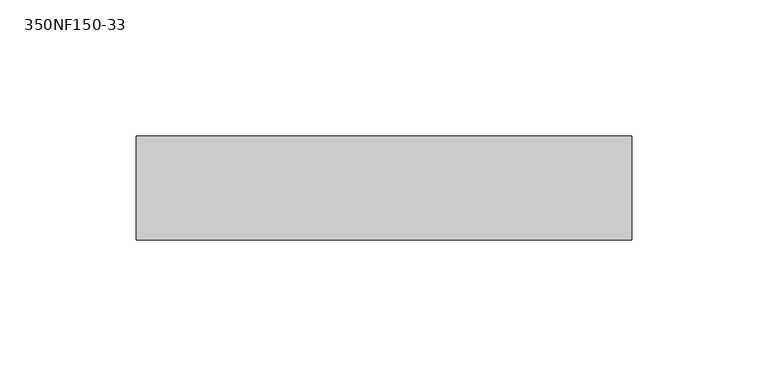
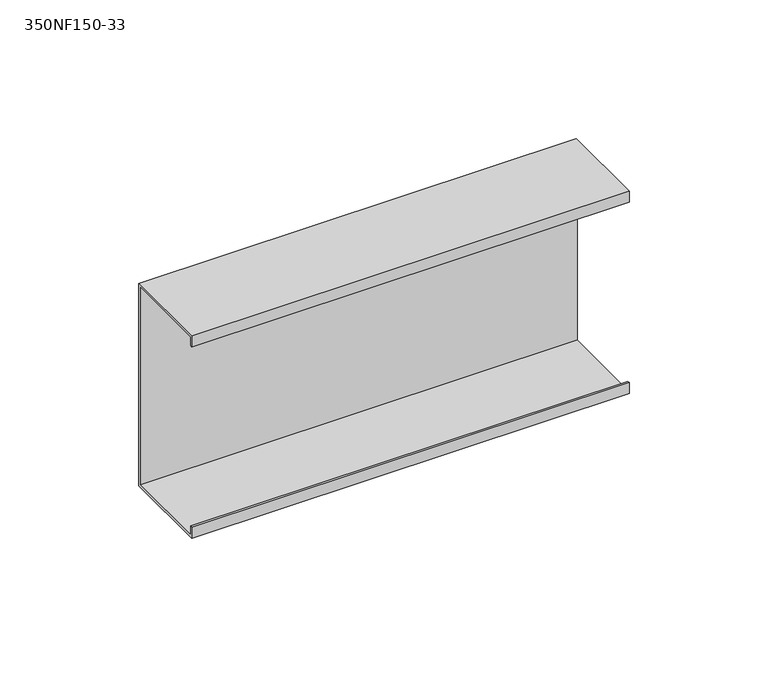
"""IFC4 building model written with IfcOpenShell, lengths in millimetres: beam geometry, BIMSF-SSMA-S : 350NF150-33."""

import ifcopenshell
import ifcopenshell.guid

model = None  # the IFC model being written
_history = None  # IfcOwnerHistory: only IFC2X3 demands one
_inside = {}  # id of a spatial element -> (the spatial element, [elements in it])
_under = {}  # id of a project, library or spatial element -> (it, [spatial elements below it])
_declared = {}  # id of a project -> (the project, [libraries it declares])
_typed = {}  # id of a type object -> (the type object, [elements of that type])
_made_of = {}  # id of a material, layer set ... -> (it, [elements and type objects made of it])


def new_model(schema):
    """Start an empty IFC model of exactly this schema.

    Asked for "IFC4X3", IfcOpenShell would pick the latest addendum, in which some entities
    have other attributes; the version numbers below select the first issue.
    IFC2X3 requires an IfcOwnerHistory on every rooted entity: one is made here for all.
    """
    global model, _history
    if schema == "IFC4X3":
        model = ifcopenshell.file(schema_version=(4, 3, 0, 0))
    else:
        model = ifcopenshell.file(schema=schema)
    _inside.clear()
    _under.clear()
    _declared.clear()
    _typed.clear()
    _made_of.clear()
    _history = None
    if model.schema == "IFC2X3":
        org = make("IfcOrganization", Name="unknown")
        user = make(
            "IfcPersonAndOrganization",
            ThePerson=make("IfcPerson", FamilyName="unknown"),
            TheOrganization=org,
        )
        app = make(
            "IfcApplication",
            ApplicationDeveloper=org,
            Version="unknown",
            ApplicationFullName="unknown",
            ApplicationIdentifier="unknown",
        )
        _history = make(
            "IfcOwnerHistory",
            OwningUser=user,
            OwningApplication=app,
            ChangeAction="ADDED",
            CreationDate=0,
        )
    return model


def make(cls, **values):
    """One entity of the class cls with the attributes given. An attribute that is None is left unset."""
    return model.create_entity(
        cls, **{name: value for name, value in values.items() if value is not None}
    )


def rooted(cls, **values):
    """An entity with a GlobalId (a new one), such as an element, a storey or a relation."""
    return make(cls, GlobalId=ifcopenshell.guid.new(), OwnerHistory=_history, **values)


def si_unit(unit_type, name, prefix=None):
    """IfcSIUnit, for example si_unit("LENGTHUNIT", "METRE", prefix="MILLI")."""
    return make("IfcSIUnit", UnitType=unit_type, Prefix=prefix, Name=name)


def assignment(units):
    """IfcUnitAssignment: the units of a project."""
    return None if units is None else make("IfcUnitAssignment", Units=units)


def point(xyz):
    """IfcCartesianPoint."""
    return None if xyz is None else make("IfcCartesianPoint", Coordinates=xyz)


def direction(xyz):
    """IfcDirection."""
    return None if xyz is None else make("IfcDirection", DirectionRatios=xyz)


def frame(location, z_axis=None, x_axis=None):
    """IfcAxis2Placement3D, a coordinate frame: its origin and axes. An axis left out is left unset."""
    return make(
        "IfcAxis2Placement3D",
        Location=point(location),
        Axis=direction(z_axis),
        RefDirection=direction(x_axis),
    )


def origin():
    """The frame at (0, 0, 0) with its axes left unset."""
    return frame((0.0, 0.0, 0.0))


def place(relative_to, where):
    """IfcLocalPlacement: puts the frame where relative to a parent placement (None: the world)."""
    return make(
        "IfcLocalPlacement", PlacementRelTo=relative_to, RelativePlacement=where
    )


def context(
    kind, dimensions, precision=None, world=None, true_north=None, identifier=None
):
    """IfcGeometricRepresentationContext, for example the 3D "Model" context."""
    return make(
        "IfcGeometricRepresentationContext",
        ContextIdentifier=identifier,
        ContextType=kind,
        CoordinateSpaceDimension=dimensions,
        Precision=precision,
        WorldCoordinateSystem=world,
        TrueNorth=true_north,
    )


def project(units=None, contexts=None):
    """IfcProject with its units and contexts."""
    return rooted(
        "IfcProject",
        Name="project",
        RepresentationContexts=contexts,
        UnitsInContext=assignment(units),
    )


def spatial(cls, under=None, at=None, **own):
    """A site, building, storey or space (cls), placed at a placement, below another one or the project."""
    s = rooted(cls, ObjectPlacement=at, **own)
    if under is not None:
        _under.setdefault(under.id(), (under, []))[1].append(s)
    return s


def polyline(points):
    """IfcPolyline through the points."""
    return make("IfcPolyline", Points=[point(p) for p in points])


def outline(outer, holes=None, kind="AREA"):
    """IfcArbitraryClosedProfileDef: a profile drawn as a closed curve; with holes, ...WithVoids."""
    if holes is None:
        return make("IfcArbitraryClosedProfileDef", ProfileType=kind, OuterCurve=outer)
    return make(
        "IfcArbitraryProfileDefWithVoids",
        ProfileType=kind,
        OuterCurve=outer,
        InnerCurves=holes,
    )


def extrude(swept, where, along, depth):
    """IfcExtrudedAreaSolid: the profile swept, set in the frame where, extruded along a direction by depth."""
    return make(
        "IfcExtrudedAreaSolid",
        SweptArea=swept,
        Position=where,
        ExtrudedDirection=direction(along),
        Depth=depth,
    )


def shape(context_of_items, identifier, shape_type, items):
    """IfcShapeRepresentation: the items that make up one representation, for example the "Body"."""
    return make(
        "IfcShapeRepresentation",
        ContextOfItems=context_of_items,
        RepresentationIdentifier=identifier,
        RepresentationType=shape_type,
        Items=items,
    )


def source(mapping_origin, context_of_items, identifier, shape_type, items):
    """IfcRepresentationMap: a shape defined once, which mapped items show again and again."""
    return make(
        "IfcRepresentationMap",
        MappingOrigin=mapping_origin,
        MappedRepresentation=shape(context_of_items, identifier, shape_type, items),
    )


def transform(
    local_origin,
    x_axis=None,
    y_axis=None,
    z_axis=None,
    scale=None,
    scale2=None,
    scale3=None,
    uniform=True,
):
    """IfcCartesianTransformationOperator3D, or its non-uniform kind. x_axis, y_axis, z_axis: its Axis1, 2, 3."""
    if uniform:
        return make(
            "IfcCartesianTransformationOperator3D",
            Axis1=direction(x_axis),
            Axis2=direction(y_axis),
            LocalOrigin=point(local_origin),
            Scale=scale,
            Axis3=direction(z_axis),
        )
    return make(
        "IfcCartesianTransformationOperator3DnonUniform",
        Axis1=direction(x_axis),
        Axis2=direction(y_axis),
        LocalOrigin=point(local_origin),
        Scale=scale,
        Axis3=direction(z_axis),
        Scale2=scale2,
        Scale3=scale3,
    )


def mapped(mapping_source, mapping_target):
    """IfcMappedItem: shows the shape of a source again, moved by a transform."""
    return make(
        "IfcMappedItem", MappingSource=mapping_source, MappingTarget=mapping_target
    )


def made_of(thing, what):
    """Note that an element or type object is made of a material, layer set ...; save() writes the relation."""
    if what is not None:
        _made_of.setdefault(what.id(), (what, []))[1].append(thing)
    return thing


def element(
    cls,
    number,
    at=None,
    inside=None,
    cuts=None,
    type_object=None,
    material=None,
    context=None,
    identifier="Body",
    shape_type=None,
    held_by="IfcProductDefinitionShape",
    body=None,
    shapes=None,
    **own,
):
    """One element of the class cls, such as IfcWall. Its Tag is "e" and its number.

    at: its placement. inside: the storey or other place that contains it. cuts: it is an
    opening in that element (IfcRelVoidsElement). A single representation is given by context,
    identifier, shape_type and body (its items); several are given by shapes. held_by: the class
    of the entity that holds the representations. save() writes the other relations.
    """
    e = rooted(cls, Tag="e%d" % number, ObjectPlacement=at, **own)
    if body is not None:
        shapes = [shape(context, identifier, shape_type, body)]
    if shapes is not None:
        e.Representation = make(held_by, Representations=shapes)
    if inside is not None:
        _inside.setdefault(inside.id(), (inside, []))[1].append(e)
    if cuts is not None:
        rooted(
            "IfcRelVoidsElement", RelatingBuildingElement=cuts, RelatedOpeningElement=e
        )
    if type_object is not None:
        _typed.setdefault(type_object.id(), (type_object, []))[1].append(e)
    return made_of(e, material)


def aggregate(whole, parts):
    """IfcRelAggregates: a whole, such as a stair, and the parts it consists of."""
    return rooted("IfcRelAggregates", RelatingObject=whole, RelatedObjects=parts)


def save(model, path):
    """Write the relations noted so far, then the file.

    IfcRelAggregates (storeys below a building ...), IfcRelContainedInSpatialStructure (elements
    in a storey), IfcRelDefinesByType, IfcRelAssociatesMaterial and IfcRelDeclares: one each for
    every whole, place, type object, material and project.
    """
    for whole, parts in _under.values():
        aggregate(whole, parts)
    for where, things in _inside.values():
        rooted(
            "IfcRelContainedInSpatialStructure",
            RelatedElements=things,
            RelatingStructure=where,
        )
    for kind, things in _typed.values():
        rooted("IfcRelDefinesByType", RelatedObjects=things, RelatingType=kind)
    for what, things in _made_of.values():
        rooted("IfcRelAssociatesMaterial", RelatedObjects=things, RelatingMaterial=what)
    for by, libraries in _declared.values():
        rooted("IfcRelDeclares", RelatingContext=by, RelatedDefinitions=libraries)
    model.write(path)


def beam_350nf150_33_c6ae7401(model_context):
    return source(origin(), model_context, "Body", "SweptSolid", [
        extrude(outline(polyline([(19.05, 44.45), (19.05, -44.45), (-19.05, -44.45), (-19.05, -39.6748), (-18.1676842, -39.6748), (-18.1676842, -43.5676842), (18.1676842, -43.5676842), (18.1676842, 43.5676842), (-18.1676842, 43.5676842), (-18.1676842, 39.6748), (-19.05, 39.6748), (-19.05, 44.45), (19.05, 44.45)])), frame((-90.884375, 0.0, 0.0), z_axis=(1.0, 0.0, 0.0), x_axis=(0.0, 1.0, 0.0)), (0.0, 0.0, 1.0), 181.76875),
    ])


if __name__ == "__main__":
    model = new_model("IFC4")
    model_context = context("Model", 3, world=origin())
    ifc_project = project(units=[si_unit("LENGTHUNIT", "METRE", prefix="MILLI")], contexts=[model_context])
    site = spatial("IfcSite", under=ifc_project)
    building = spatial("IfcBuilding", under=site)
    placement = place(None, origin())
    beam_350nf150_33_shape = beam_350nf150_33_c6ae7401(model_context)
    element("IfcBeam", 1, ObjectType="BIMSF-SSMA-S : 350NF150-33", at=placement, inside=building, context=model_context, shape_type="MappedRepresentation", body=[
        mapped(beam_350nf150_33_shape, transform((0.0, 0.0, 0.0), x_axis=(1.0, 0.0, 0.0), y_axis=(0.0, 1.0, 0.0), z_axis=(0.0, 0.0, 1.0))),
    ])
    save(model, "model.ifc")
